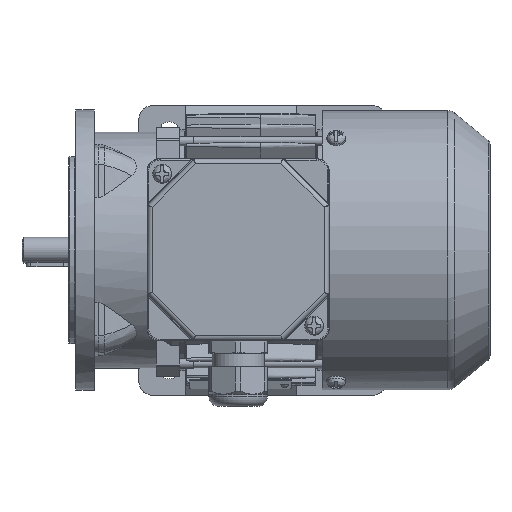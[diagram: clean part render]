
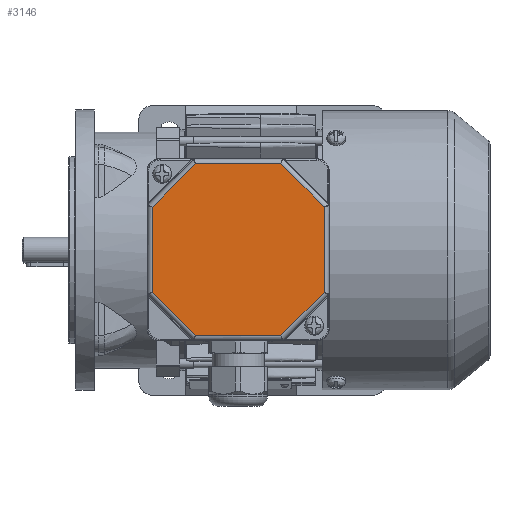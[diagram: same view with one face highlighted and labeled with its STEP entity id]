
A CAD part, top view. The second image highlights one B-rep face of the part: STEP entity #3146.
In plain terms, the highlighted planar face has unit normal (0, 0, 1).
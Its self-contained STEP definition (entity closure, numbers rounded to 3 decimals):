
#3146 = ADVANCED_FACE( '', ( #7453 ), #7454, .T. );
#7453 = FACE_OUTER_BOUND( '', #14543, .T. );
#7454 = PLANE( '', #14544 );
#14543 = EDGE_LOOP( '', ( #30075, #30076, #30077, #30078, #30079, #30080, #30081, #30082 ) );
#14544 = AXIS2_PLACEMENT_3D( '', #30083, #30084, #30085 );
#30075 = ORIENTED_EDGE( '', *, *, #46254, .T. );
#30076 = ORIENTED_EDGE( '', *, *, #46255, .T. );
#30077 = ORIENTED_EDGE( '', *, *, #46256, .T. );
#30078 = ORIENTED_EDGE( '', *, *, #46257, .T. );
#30079 = ORIENTED_EDGE( '', *, *, #46258, .T. );
#30080 = ORIENTED_EDGE( '', *, *, #46259, .T. );
#30081 = ORIENTED_EDGE( '', *, *, #46260, .T. );
#30082 = ORIENTED_EDGE( '', *, *, #46261, .T. );
#30083 = CARTESIAN_POINT( '', ( -39., 39., 12. ) );
#30084 = DIRECTION( '', ( 0., 0., 1. ) );
#30085 = DIRECTION( '', ( 1., 0., 0. ) );
#46254 = EDGE_CURVE( '', #54270, #54271, #54272, .F. );
#46255 = EDGE_CURVE( '', #54271, #54273, #54274, .T. );
#46256 = EDGE_CURVE( '', #54273, #54275, #54276, .F. );
#46257 = EDGE_CURVE( '', #54275, #54277, #54278, .T. );
#46258 = EDGE_CURVE( '', #54277, #54279, #54280, .F. );
#46259 = EDGE_CURVE( '', #54279, #54281, #54282, .T. );
#46260 = EDGE_CURVE( '', #54281, #54283, #54284, .F. );
#46261 = EDGE_CURVE( '', #54283, #54270, #54285, .T. );
#54270 = VERTEX_POINT( '', #67165 );
#54271 = VERTEX_POINT( '', #67166 );
#54272 = LINE( '', #67167, #67168 );
#54273 = VERTEX_POINT( '', #67169 );
#54274 = LINE( '', #67170, #67171 );
#54275 = VERTEX_POINT( '', #67172 );
#54276 = LINE( '', #67173, #67174 );
#54277 = VERTEX_POINT( '', #67175 );
#54278 = LINE( '', #67176, #67177 );
#54279 = VERTEX_POINT( '', #67178 );
#54280 = LINE( '', #67179, #67180 );
#54281 = VERTEX_POINT( '', #67181 );
#54282 = LINE( '', #67182, #67183 );
#54283 = VERTEX_POINT( '', #67184 );
#54284 = LINE( '', #67185, #67186 );
#54285 = LINE( '', #67187, #67188 );
#67165 = CARTESIAN_POINT( '', ( 36.825, -18.255, 12. ) );
#67166 = CARTESIAN_POINT( '', ( 36.825, 18.255, 12. ) );
#67167 = CARTESIAN_POINT( '', ( 36.825, 19.069, 12. ) );
#67168 = VECTOR( '', #84515, 1000. );
#67169 = CARTESIAN_POINT( '', ( 18.255, 36.825, 12. ) );
#67170 = CARTESIAN_POINT( '', ( 17.679, 37.401, 12. ) );
#67171 = VECTOR( '', #84516, 1000. );
#67172 = CARTESIAN_POINT( '', ( -18.255, 36.825, 12. ) );
#67173 = CARTESIAN_POINT( '', ( -19.069, 36.825, 12. ) );
#67174 = VECTOR( '', #84517, 1000. );
#67175 = CARTESIAN_POINT( '', ( -36.825, 18.255, 12. ) );
#67176 = CARTESIAN_POINT( '', ( -37.401, 17.679, 12. ) );
#67177 = VECTOR( '', #84518, 1000. );
#67178 = CARTESIAN_POINT( '', ( -36.825, -18.255, 12. ) );
#67179 = CARTESIAN_POINT( '', ( -36.825, -19.069, 12. ) );
#67180 = VECTOR( '', #84519, 1000. );
#67181 = CARTESIAN_POINT( '', ( -18.255, -36.825, 12. ) );
#67182 = CARTESIAN_POINT( '', ( -17.679, -37.401, 12. ) );
#67183 = VECTOR( '', #84520, 1000. );
#67184 = CARTESIAN_POINT( '', ( 18.255, -36.825, 12. ) );
#67185 = CARTESIAN_POINT( '', ( 19.069, -36.825, 12. ) );
#67186 = VECTOR( '', #84521, 1000. );
#67187 = CARTESIAN_POINT( '', ( 37.401, -17.679, 12. ) );
#67188 = VECTOR( '', #84522, 1000. );
#84515 = DIRECTION( '', ( 0., -1., 0. ) );
#84516 = DIRECTION( '', ( -0.707, 0.707, 0. ) );
#84517 = DIRECTION( '', ( 1., 0., 0. ) );
#84518 = DIRECTION( '', ( -0.707, -0.707, 0. ) );
#84519 = DIRECTION( '', ( 0., 1., 0. ) );
#84520 = DIRECTION( '', ( 0.707, -0.707, 0. ) );
#84521 = DIRECTION( '', ( -1., 0., 0. ) );
#84522 = DIRECTION( '', ( 0.707, 0.707, 0. ) );
